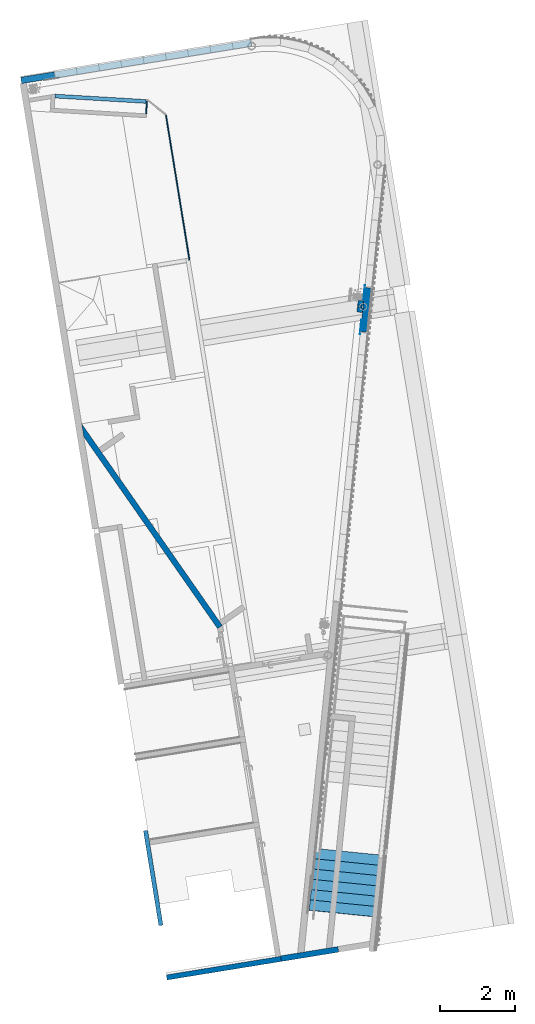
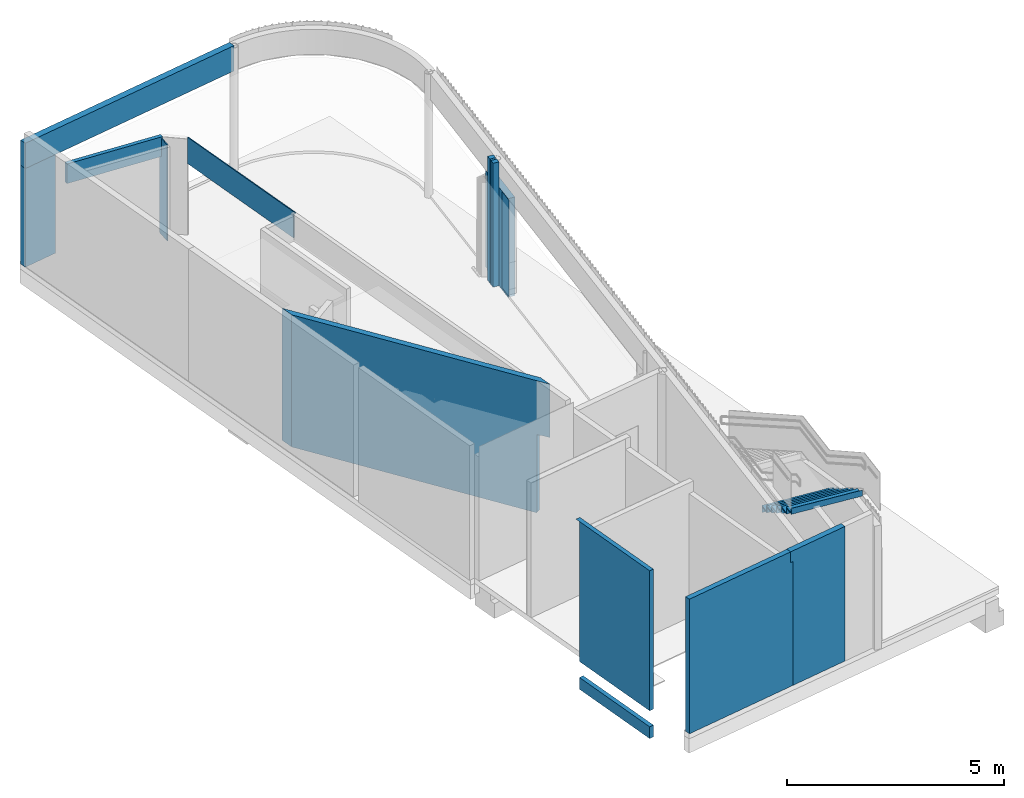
# One storey, part 12 of 23: 16 walls, 1 stair flight, 1 element without a shape of its own.
"""IFC2X3 building model written with IfcOpenShell, lengths in millimetres."""

from ifc_helpers import new_model, entity, si_unit, converted_unit, derived_unit, direction, frame, frame_2d, origin, origin_with_axes, origin_2d_with_axis, place, context, subcontext, project, spatial, rectangle, extrude, faceted_brep, material, material_list, layer, layer_set, layer_usage, type_object, element, aggregate, save


model = new_model("IFC2X3")

# Units and contexts
plan_context = context("Plan", 3, precision=1e-05, world=origin_with_axes())
model_context = context("Model", 3, precision=0.01, world=origin(), true_north=direction((6.12323399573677e-17, 1.0)))
body_context = subcontext(model_context, "Body", "Model", "MODEL_VIEW")
ifc_project = project(units=[converted_unit("PLANEANGLEUNIT", "DEGREE", entity("IfcPositiveLengthMeasure", 0.0174532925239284), si_unit("PLANEANGLEUNIT", "RADIAN"), dimensions=[0, 0, 0, 0, 0, 0, 0]), si_unit("AREAUNIT", "SQUARE_METRE"), si_unit("LENGTHUNIT", "METRE", prefix="MILLI"), si_unit("MASSUNIT", "GRAM", prefix="KILO"), si_unit("POWERUNIT", "WATT"), si_unit("PRESSUREUNIT", "PASCAL", prefix="KILO"), si_unit("FORCEUNIT", "NEWTON", prefix="KILO"), si_unit("ELECTRICVOLTAGEUNIT", "VOLT"), si_unit("ELECTRICCURRENTUNIT", "AMPERE"), si_unit("THERMODYNAMICTEMPERATUREUNIT", "DEGREE_CELSIUS"), si_unit("TIMEUNIT", "SECOND"), si_unit("VOLUMEUNIT", "CUBIC_METRE"), derived_unit("LINEARVELOCITYUNIT", [(si_unit("LENGTHUNIT", "METRE"), 1), (si_unit("TIMEUNIT", "SECOND"), -1)]), derived_unit("VOLUMETRICFLOWRATEUNIT", [(si_unit("VOLUMEUNIT", "CUBIC_METRE"), 1), (si_unit("TIMEUNIT", "SECOND"), -1)]), derived_unit("THERMALTRANSMITTANCEUNIT", [(si_unit("POWERUNIT", "WATT"), 1), (si_unit("THERMODYNAMICTEMPERATUREUNIT", "KELVIN"), -1), (si_unit("AREAUNIT", "SQUARE_METRE"), -1)]), derived_unit("SOUNDPRESSUREUNIT", [(si_unit("PRESSUREUNIT", "PASCAL"), 1)])], contexts=[model_context, plan_context])

# Site, building, storey
site_placement = place(None, frame((-0.00071070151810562, 0.00438415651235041, 0.0), z_axis=(0.0, 0.0, 1.0), x_axis=(-0.160236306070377, 0.987078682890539, 0.0)))
site = spatial("IfcSite", under=ifc_project, at=site_placement, Name="Default", CompositionType="ELEMENT")
building_placement = place(site_placement, origin_with_axes())
building = spatial("IfcBuilding", under=site, at=building_placement, Name="TOO", CompositionType="ELEMENT")
storey_placement = place(building_placement, frame((0.0, 0.0, 58999.9999999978), z_axis=(0.0, 0.0, 1.0), x_axis=(1.0, 0.0, 0.0)))
storey = spatial("IfcBuildingStorey", under=building, at=storey_placement, Name="Nivå F", CompositionType="ELEMENT", Elevation=58999.9999999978)

# Walls
ifc_material_1 = material(Name="A240 - Gipsplate")
ifc_layer_1 = layer(ifc_material_1, 12.5)
ifc_layer_2 = layer(ifc_material_1, 12.5)
ifc_material_2 = material(Name="A200 - Isolasjon - Rock Wool")
ifc_layer_3 = layer(ifc_material_2, 100.0)
ifc_layer_4 = layer(ifc_material_1, 12.5)
ifc_layer_5 = layer(ifc_material_1, 12.5)
ifc_layer_set_1 = layer_set([ifc_layer_1, ifc_layer_2, ifc_layer_3, ifc_layer_4, ifc_layer_5], Name="Basic Wall:A242 - GG100/100GG")
wall_type_1 = type_object("IfcWallType", Name="Basic Wall:A242 - GG100/100GG", PredefinedType="STANDARD", material=ifc_layer_set_1)
wall_1_placement = place(storey_placement, frame((763112.619644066, -505526.038959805, -70.0), z_axis=(0.0, 0.0, 1.0), x_axis=(0.0, 1.0, 0.0)))
element("IfcWall", 1, at=wall_1_placement, inside=storey, type_object=wall_type_1, Name="Basic Wall:A242 - GG100/100GG", ObjectType="Basic Wall:A242 - GG100/100GG", context=body_context, shape_type="Brep", body=[
    faceted_brep([(0.0, -75.0, 0.0), (157.454085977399, -75.0, 0.0), (312.745513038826, -75.0, 0.0), (1546.30940745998, -75.0, 0.0), (1546.30940745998, -75.0, 3480.0), (1615.05940746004, -75.0, 3480.0), (1615.05940746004, -75.0, 3780.0), (312.745513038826, -75.0, 3780.0), (157.454085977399, -75.0, 3780.0), (0.0, -75.0, 3780.0), (0.0, 75.0, 0.0), (0.0, 75.0, 3780.0), (1615.05940746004, 75.0, 3780.0), (1615.05940746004, 75.0, 3480.0), (1546.30940745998, 75.0, 3480.0), (1546.30940745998, 75.0, 0.0), (1546.30940745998, -62.5000000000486, 0.0), (1546.30940745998, -62.5000000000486, 3480.0)], [[[0, 1, 2, 3, 4, 5, 6, 7, 8, 9]], [[10, 11, 12, 13, 14, 15]], [[3, 2, 1, 0, 10, 15, 16]], [[9, 8, 7, 6, 12, 11]], [[0, 9, 11, 10]], [[6, 5, 13, 12]], [[13, 5, 4, 17, 14]], [[4, 3, 16, 15, 14, 17]]]),
])
wall_2_placement = place(storey_placement, frame((771773.280917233, -503938.79756389, 0.0), z_axis=(0.0, 0.0, 1.0), x_axis=(0.90134359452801, 0.433104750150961, 0.0)))
element("IfcWall", 2, at=wall_2_placement, inside=storey, type_object=wall_type_1, Name="Basic Wall:A242 - GG100/100GG", ObjectType="Basic Wall:A242 - GG100/100GG", context=body_context, shape_type="Brep", body=[
    faceted_brep([(339.929947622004, -75.0, 0.0), (489.929947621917, -75.0, 0.0), (5939.92994762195, -75.0, 0.0), (6089.92994762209, -75.0, 0.0), (6878.05394401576, -75.0, 0.0), (6878.05394401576, -75.0, 3710.0), (6089.92994762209, -75.0, 3710.0), (5939.92994762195, -75.0, 3710.0), (312.16822057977, -75.0, 3710.0), (312.16822057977, -75.0, 2200.0), (339.929947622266, -75.0, 2200.0), (6565.88572343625, 75.0, 0.0), (346.336538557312, 75.0, 0.0), (339.929947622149, 75.0, 0.0), (339.929947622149, 75.0, 2200.0), (235.39105605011, 75.0, 2200.0), (235.391056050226, 75.0, 2210.0), (1.25146470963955e-09, 75.0, 2210.0), (0.0, 75.0, 3710.0), (346.336538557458, 75.0, 3710.0), (6565.88572343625, 75.0, 3710.0), (191.236466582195, -16.8910641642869, 2200.0), (191.236466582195, -16.8910641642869, 2210.0)], [[[0, 1, 2, 3, 4, 5, 6, 7, 8, 9, 10]], [[11, 12, 13, 14, 15, 16, 17, 18, 19, 20]], [[4, 3, 2, 1, 0, 13, 12, 11]], [[8, 7, 6, 5, 20, 19, 18]], [[5, 4, 11, 20]], [[10, 9, 21, 15, 14]], [[13, 0, 10, 14]], [[8, 18, 17, 22, 21, 9]], [[16, 22, 17]], [[22, 16, 15, 21]]]),
])
ifc_layer_6 = layer(ifc_material_1, 12.5)
ifc_layer_7 = layer(ifc_material_1, 12.5)
ifc_layer_8 = layer(ifc_material_1, 12.5)
ifc_material_3 = material(Name="A240 - Stenderverk - Uisolert")
ifc_layer_9 = layer(ifc_material_3, 100.0)
ifc_layer_set_2 = layer_set([ifc_layer_6, ifc_layer_7, ifc_layer_8, ifc_layer_9], Name="Basic Wall:A242 - GGG100/0")
wall_type_2 = type_object("IfcWallType", Name="Basic Wall:A242 - GGG100/0", PredefinedType="STANDARD", material=ifc_layer_set_2)
wall_3_placement = place(storey_placement, frame((763106.369644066, -498309.980498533, -70.0), z_axis=(0.0, 0.0, 1.0), x_axis=(0.0, -1.0, 0.0)))
element("IfcWall", 3, at=wall_3_placement, inside=storey, type_object=wall_type_2, Name="Basic Wall:A242 - GGG100/0", ObjectType="Basic Wall:A242 - GGG100/0", context=body_context, shape_type="Brep", body=[
    faceted_brep([(5669.749053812, -68.750000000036, 0.0), (5669.749053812, -68.750000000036, 3780.00000000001), (5669.749053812, 68.750000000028, 3780.00000000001), (5669.749053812, 68.750000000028, 0.0), (2592.49999999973, 68.750000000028, 3780.00000000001), (2592.49999999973, 68.750000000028, 0.0), (2592.49999999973, -68.750000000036, 0.0), (2592.49999999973, -68.750000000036, 3780.00000000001)], [[[0, 1, 2, 3]], [[4, 5, 3, 2]], [[6, 7, 1, 0]], [[5, 6, 0, 3]], [[7, 4, 2, 1]], [[7, 6, 5, 4]]], orient=[[False], [False], [False], [False], [False], [False]]),
])
ifc_layer_10 = layer(ifc_material_1, 12.5)
ifc_layer_11 = layer(ifc_material_1, 12.5)
ifc_layer_12 = layer(ifc_material_2, 120.0)
ifc_layer_13 = layer(ifc_material_1, 12.5)
ifc_layer_14 = layer(ifc_material_1, 12.5)
ifc_layer_set_3 = layer_set([ifc_layer_10, ifc_layer_11, ifc_layer_12, ifc_layer_13, ifc_layer_14], Name="Basic Wall:A242 - GG120/100GG")
ifc_layer_usage_1 = layer_usage(ifc_layer_set_3, "AXIS2", "NEGATIVE", 85.0)
wall_type_3 = type_object("IfcWallType", Name="Basic Wall:A242 - GG120/100GG", PredefinedType="STANDARD", material=ifc_layer_set_3)
wall_4_placement = place(storey_placement, frame((780354.300785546, -509129.809516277, -70.0), z_axis=(0.0, 0.0, 1.0), x_axis=(-0.965925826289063, 0.25881904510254, 0.0)))
element("IfcWallStandardCase", 4, at=wall_4_placement, inside=storey, type_object=wall_type_3, material=ifc_layer_usage_1, Name="Basic Wall:A242 - GG120/100GG", ObjectType="Basic Wall:A242 - GG120/100GG", context=body_context, shape_type="SweptSolid", body=[
    extrude(rectangle(XDim=1179.99999999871, YDim=169.999999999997, at=frame_2d((589.999999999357, 1.79340986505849e-11), x_axis=(-1.0, 0.0))), origin(), (0.0, 0.0, 1.0), 2769.99999999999),
])
wall_5_placement = place(storey_placement, frame((787277.619644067, -507101.295602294, 2700.0), z_axis=(0.0, 0.0, 1.0), x_axis=(0.0, 1.0, 0.0)))
element("IfcWall", 5, at=wall_5_placement, inside=storey, type_object=wall_type_3, Name="Basic Wall:A242 - GG120/100GG", ObjectType="Basic Wall:A242 - GG120/100GG", context=body_context, shape_type="Brep", body=[
    faceted_brep([(6198.81510376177, -85.0, 710.000000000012), (6198.81510376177, -85.0, 0.0), (0.0, -85.0, 0.0), (0.0, -85.0, 710.000000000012), (6198.81510376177, 85.0, 0.0), (6198.81510376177, 85.0, 710.000000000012), (0.0, 85.0, 710.000000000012), (0.0, 85.0, 0.0)], [[[0, 1, 2, 3]], [[4, 5, 6, 7]], [[7, 6, 3, 2]], [[1, 4, 7, 2]], [[5, 0, 3, 6]], [[5, 4, 1, 0]]], orient=[[False], [False], [False], [False], [False], [False]]),
])
wall_6_placement = place(storey_placement, frame((787277.619644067, -501792.480498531, -70.0), z_axis=(0.0, 0.0, 1.0), x_axis=(0.0, 1.0, 0.0)))
element("IfcWall", 6, at=wall_6_placement, inside=storey, type_object=wall_type_3, Name="Basic Wall:A242 - GG120/100GG", ObjectType="Basic Wall:A242 - GG120/100GG", context=body_context, shape_type="Brep", body=[
    faceted_brep([(889.999999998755, 85.0000000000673, 0.0), (889.999999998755, 85.0000000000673, 2769.99999999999), (0.0, 85.0000000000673, 2769.99999999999), (0.0, 85.0000000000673, 0.0), (0.0, -85.0000000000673, 2769.99999999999), (0.0, -85.0000000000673, 0.0), (889.999999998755, -85.0000000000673, 2769.99999999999), (889.999999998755, -85.0000000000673, 0.0)], [[[0, 1, 2, 3]], [[3, 2, 4, 5]], [[6, 7, 5, 4]], [[7, 0, 3, 5]], [[1, 6, 4, 2]], [[7, 6, 1, 0]]], orient=[[False], [False], [False], [False], [False], [False]]),
])
ifc_layer_15 = layer(ifc_material_1, 12.5)
ifc_layer_16 = layer(ifc_material_1, 12.5)
ifc_layer_17 = layer(ifc_material_1, 12.5)
ifc_layer_18 = layer(ifc_material_3, 75.0)
ifc_layer_set_4 = layer_set([ifc_layer_15, ifc_layer_16, ifc_layer_17, ifc_layer_18], Name="Basic Wall:A242 - GGG75/0")
wall_type_4 = type_object("IfcWallType", Name="Basic Wall:A242 - GGG75/0", PredefinedType="STANDARD", material=ifc_layer_set_4)
wall_7_placement = place(storey_placement, frame((767177.619644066, -500970.980498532, -220.0), z_axis=(0.0, 0.0, 1.0), x_axis=(-1.0, 0.0, 0.0)))
element("IfcWall", 7, at=wall_7_placement, inside=storey, type_object=wall_type_4, Name="Basic Wall:A242 - GGG75/0", ObjectType="Basic Wall:A242 - GGG75/0", context=body_context, shape_type="Brep", body=[
    faceted_brep([(0.0, -56.2499999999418, 3930.85031052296), (2680.0, -56.2499999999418, 3930.85031052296), (2680.0, 56.2500000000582, 3930.85031052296), (0.0, 56.2500000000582, 3930.85031052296), (125.0, -56.2499999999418, 0.0), (2680.0, -56.2499999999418, 0.0), (2680.0, -56.2499999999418, 3630.0), (0.0, -56.2499999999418, 3930.0), (125.0, -56.2499999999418, 3930.0), (125.0, 56.2500000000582, 0.0), (125.0, 56.2500000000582, 3930.0), (0.0, 56.2500000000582, 3930.0), (2680.0, 56.2500000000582, 0.0)], [[[0, 1, 2, 3]], [[4, 5, 6, 1, 0, 7, 8]], [[9, 10, 11, 3, 2, 12]], [[5, 4, 9, 12]], [[1, 6, 5, 12, 2]], [[7, 0, 3, 11]], [[7, 11, 10, 8]], [[4, 8, 10, 9]]]),
])
wall_8_placement = place(storey_placement, frame((767052.619644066, -500970.980498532, -1600.0), z_axis=(0.0, 0.0, 1.0), x_axis=(-1.0, 0.0, 0.0)))
element("IfcWall", 8, at=wall_8_placement, inside=storey, type_object=wall_type_4, Name="Basic Wall:A242 - GGG75/0", ObjectType="Basic Wall:A242 - GGG75/0", context=body_context, shape_type="Brep", body=[
    faceted_brep([(2555.00000000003, 56.2500000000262, 600.000000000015), (2555.00000000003, -56.2500000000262, 600.000000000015), (2555.00000000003, -56.2500000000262, 929.997741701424), (2555.00000000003, 56.2500000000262, 929.997741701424), (0.0, 56.2500000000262, 600.000000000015), (0.0, 56.2500000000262, 929.997741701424), (0.0, -56.2500000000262, 600.000000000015), (0.0, -56.2500000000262, 929.997741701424)], [[[0, 1, 2, 3]], [[4, 0, 3, 5]], [[6, 4, 5, 7]], [[1, 6, 7, 2]], [[3, 2, 7, 5]], [[4, 6, 1, 0]]], orient=[[False], [False], [False], [False], [False], [False]]),
])
ifc_layer_19 = layer(ifc_material_1, 12.5)
ifc_layer_20 = layer(ifc_material_1, 12.5)
ifc_layer_21 = layer(ifc_material_3, 100.0)
ifc_layer_set_5 = layer_set([ifc_layer_19, ifc_layer_20, ifc_layer_21], Name="Basic Wall:A242 - GG100/0")
ifc_layer_usage_2 = layer_usage(ifc_layer_set_5, "AXIS2", "POSITIVE", -62.5)
wall_type_5 = type_object("IfcWallType", Name="Basic Wall:A242 - GG100/0", PredefinedType="STANDARD", material=ifc_layer_set_5)
wall_9_placement = place(storey_placement, frame((779968.323821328, -508938.388825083, -70.0), z_axis=(0.0, 0.0, 1.0), x_axis=(0.258819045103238, 0.965925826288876, 0.0)))
element("IfcWallStandardCase", 9, at=wall_9_placement, inside=storey, type_object=wall_type_5, material=ifc_layer_usage_2, Name="Basic Wall:A242 - GG100/0", ObjectType="Basic Wall:A242 - GG100/0", context=body_context, shape_type="SweptSolid", body=[
    extrude(rectangle(XDim=149.744935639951, YDim=125.000000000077, at=frame_2d((74.8724678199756, 2.77857736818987e-11), x_axis=(-1.0, 0.0))), origin(), (0.0, 0.0, 1.0), 3480.00000000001),
])
ifc_layer_usage_3 = layer_usage(ifc_layer_set_5, "AXIS2", "NEGATIVE", 62.5)
wall_10_placement = place(storey_placement, frame((779789.627543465, -508890.507301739, -70.0), z_axis=(0.0, 0.0, 1.0), x_axis=(0.258819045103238, 0.965925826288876, 0.0)))
element("IfcWallStandardCase", 10, at=wall_10_placement, inside=storey, type_object=wall_type_5, material=ifc_layer_usage_3, Name="Basic Wall:A242 - GG100/0", ObjectType="Basic Wall:A242 - GG100/0", context=body_context, shape_type="SweptSolid", body=[
    extrude(rectangle(XDim=149.744935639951, YDim=125.000000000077, at=frame_2d((74.8724678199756, 2.77857736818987e-11), x_axis=(-1.0, 0.0))), origin(), (0.0, 0.0, 1.0), 3480.00000000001),
])
ifc_layer_usage_4 = layer_usage(ifc_layer_set_5, "AXIS2", "POSITIVE", -62.5)
wall_11_placement = place(storey_placement, frame((779930.534108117, -508837.940498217, -70.0), z_axis=(0.0, 0.0, 1.0), x_axis=(-0.965925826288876, 0.258819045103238, 0.0)))
element("IfcWallStandardCase", 11, at=wall_11_placement, inside=storey, type_object=wall_type_5, material=ifc_layer_usage_4, Name="Basic Wall:A242 - GG100/0", ObjectType="Basic Wall:A242 - GG100/0", context=body_context, shape_type="SweptSolid", body=[
    extrude(rectangle(XDim=59.9999999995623, YDim=125.000000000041, at=frame_2d((29.9999999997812, 9.1766594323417e-12), x_axis=(-1.0, 0.0))), origin(), (0.0, 0.0, 1.0), 3480.00000000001),
])
ifc_layer_22 = layer(ifc_material_1, 12.5)
ifc_material_4 = material(Name="A240 - X-finer")
ifc_layer_23 = layer(ifc_material_4, 15.0)
ifc_layer_24 = layer(ifc_material_3, 75.0)
ifc_layer_set_6 = layer_set([ifc_layer_22, ifc_layer_23, ifc_layer_24], Name="Basic Wall:A242 - GX75/0 (KA)")
wall_type_6 = type_object("IfcWallType", Name="Basic Wall:A242 - GX75/0 (KA)", PredefinedType="STANDARD", material=ifc_layer_set_6)
wall_12_placement = place(storey_placement, frame((786722.603910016, -501723.30065741, 2200.0), z_axis=(0.0, 0.0, 1.0), x_axis=(-0.218143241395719, -0.975916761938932, 0.0)))
element("IfcWall", 12, at=wall_12_placement, inside=storey, type_object=wall_type_6, Name="Basic Wall:A242 - GX75/0 (KA)", ObjectType="Basic Wall:A242 - GX75/0 (KA)", context=body_context, shape_type="Brep", body=[
    faceted_brep([(2464.5, -51.25, 0.0), (2464.5, -51.25, 550.0), (0.0, -51.2500000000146, 550.0), (0.0, -51.2500000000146, 0.0), (2435.0, -51.25, 0.0), (2435.0, -51.2500000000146, 500.0), (2462.49999999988, -51.2500000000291, 500.0), (2462.49999999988, -51.2500000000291, 0.0), (0.0, 51.2499999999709, 550.0), (2464.49999999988, 51.2499999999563, 550.0), (2464.49999999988, 51.2499999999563, 500.0), (2435.0, 51.2500000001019, 500.0), (2435.0, 51.2500000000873, 0.0), (0.0, 51.2499999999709, 0.0), (2464.49999999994, 23.7499999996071, 0.0), (2464.49999999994, 23.7500000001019, 500.0), (2462.49999999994, 23.7499999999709, 500.0), (2462.49999999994, 23.7499999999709, 495.744352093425), (2462.49999999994, 23.7499999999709, 0.0), (2435.0, 23.7499999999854, 500.0)], [[[0, 1, 2, 3, 4, 5, 6, 7]], [[8, 9, 10, 11, 12, 13]], [[3, 13, 12, 4]], [[1, 0, 14, 15, 10, 9]], [[2, 1, 9, 8]], [[3, 2, 8, 13]], [[6, 16, 17, 18, 7]], [[5, 4, 12, 11, 19]], [[16, 6, 5, 19, 11, 10, 15]], [[15, 14, 18, 17, 16]], [[0, 7, 18, 14]]]),
])
ifc_layer_25 = layer(ifc_material_1, 12.5)
ifc_layer_26 = layer(ifc_material_4, 15.0)
ifc_layer_set_7 = layer_set([ifc_layer_25, ifc_layer_26], Name="Basic Wall:A242 - GX (KA)")
wall_type_7 = type_object("IfcWallType", Name="Basic Wall:A242 - GX (KA)", PredefinedType="STANDARD", material=ifc_layer_set_7)
wall_13_placement = place(storey_placement, frame((785867.59301216, -504041.362237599, 0.0), z_axis=(0.0, 0.0, 1.0), x_axis=(0.975916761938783, -0.218143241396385, 0.0)))
element("IfcWall", 13, at=wall_13_placement, inside=storey, type_object=wall_type_7, Name="Basic Wall:A242 - GX (KA)", ObjectType="Basic Wall:A242 - GX (KA)", context=body_context, shape_type="Brep", body=[
    faceted_brep([(0.0, -13.75, 0.0), (355.439892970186, -13.75, 0.0), (355.4398929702, -13.7500000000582, 2695.74435209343), (352.500000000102, -13.75, 2695.74435209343), (352.500000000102, -13.75, 2700.0), (277.500000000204, -13.7499999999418, 2700.0), (0.0, -13.75, 2700.0), (0.0, 13.7499999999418, 0.0), (0.0, 13.7499999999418, 2700.0), (277.500000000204, 13.7499999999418, 2700.0), (352.500000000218, 13.7499999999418, 2700.0), (352.500000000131, 13.7499999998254, 2695.74435209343), (374.983125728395, 13.7499999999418, 2695.74435209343), (374.983125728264, 13.7499999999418, 0.0)], [[[0, 1, 2, 3, 4, 5, 6]], [[7, 8, 9, 10, 11, 12, 13]], [[1, 0, 7, 13]], [[6, 5, 4, 10, 9, 8]], [[11, 3, 2, 12]], [[2, 1, 13, 12]], [[4, 3, 11, 10]], [[0, 6, 8, 7]]]),
])
wall_14_placement = place(storey_placement, frame((785757.619644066, -504555.730498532, 2010.0), z_axis=(0.0, 0.0, 1.0), x_axis=(-1.0, 0.0, 0.0)))
element("IfcWall", 14, at=wall_14_placement, inside=storey, type_object=wall_type_7, Name="Basic Wall:A242 - GX (KA)", ObjectType="Basic Wall:A242 - GX (KA)", context=body_context, shape_type="Brep", body=[
    faceted_brep([(0.0, -13.75, 0.0), (3860.0, -13.75, 0.0), (3860.0, -13.75, 700.0), (3911.25000000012, -13.75, 700.0), (3911.25000000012, -13.75, 740.0), (0.0, -13.75, 740.0), (0.0, -13.75, 712.691025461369), (0.0, 13.75, 0.0), (0.0, 13.75, 712.691025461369), (0.0, 13.75, 740.0), (3911.25000000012, 13.75, 740.0), (3911.25000000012, 13.75, 700.0), (3860.0, 13.75, 700.0), (3860.0, 13.75, 0.0)], [[[0, 1, 2, 3, 4, 5, 6]], [[7, 8, 9, 10, 11, 12, 13]], [[2, 1, 13, 12]], [[1, 0, 7, 13]], [[5, 4, 10, 9]], [[0, 6, 5, 9, 8, 7]], [[4, 3, 11, 10]], [[11, 3, 2, 12]]]),
])
ifc_material_5 = material(Name="A256 - Metall  Aluminum beslag")
ifc_layer_27 = layer(ifc_material_5, 5.0)
ifc_layer_set_8 = layer_set([ifc_layer_27], Name="Basic Wall:A256 Metal beslag (KA)")
ifc_layer_usage_5 = layer_usage(ifc_layer_set_8, "AXIS2", "NEGATIVE", 2.5)
wall_type_8 = type_object("IfcWallType", Name="Basic Wall:A256 Metal beslag (KA)", PredefinedType="STANDARD", material=ifc_layer_set_8)
wall_15_placement = place(storey_placement, frame((780441.026725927, -509057.284615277, 0.0), z_axis=(0.0, 0.0, 1.0), x_axis=(-0.965925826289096, 0.258819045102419, 0.0)))
element("IfcWallStandardCase", 15, at=wall_15_placement, inside=storey, type_object=wall_type_8, material=ifc_layer_usage_5, Name="Basic Wall:A256 Metal beslag (KA)", ObjectType="Basic Wall:A256 Metal beslag (KA)", context=body_context, shape_type="SweptSolid", body=[
    extrude(rectangle(XDim=387.867285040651, YDim=5.00000000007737, at=frame_2d((193.933642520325, -4.59920990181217e-12), x_axis=(-1.0, 0.0))), origin(), (0.0, 0.0, 1.0), 2699.99999999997),
])
ifc_layer_usage_6 = layer_usage(ifc_layer_set_8, "AXIS2", "NEGATIVE", 2.5)
wall_16_placement = place(storey_placement, frame((779550.314921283, -508818.619106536, 0.0), z_axis=(0.0, 0.0, 1.0), x_axis=(-0.965925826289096, 0.258819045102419, 0.0)))
element("IfcWallStandardCase", 16, at=wall_16_placement, inside=storey, type_object=wall_type_8, material=ifc_layer_usage_6, Name="Basic Wall:A256 Metal beslag (KA)", ObjectType="Basic Wall:A256 Metal beslag (KA)", context=body_context, shape_type="SweptSolid", body=[
    extrude(rectangle(XDim=387.867285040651, YDim=5.00000000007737, at=frame_2d((193.933642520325, -4.59920990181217e-12), x_axis=(-1.0, 0.0))), origin(), (0.0, 0.0, 1.0), 2699.99999999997),
])

# Stair, stair flight
stair_placement = place(storey_placement, origin_with_axes())
stair = element("IfcStair", 17, at=stair_placement, inside=storey, Name="Assembled Stair:Stair", ObjectType="Assembled Stair:A280 - S01", ShapeType="NOTDEFINED")
ifc_material_6 = material(Name="A255 - Gummi")
ifc_material_7 = material(Name="<Unnamed>")
ifc_material_list = material_list([ifc_material_6, ifc_material_7])
stair_flight_type = type_object("IfcStairFlightType", Name="Non-Monolithic Run:Trapper med gummi belegg", PredefinedType="STRAIGHT")
stair_flight_placement = place(stair_placement, origin_with_axes())
stair_flight = element("IfcStairFlight", 18, at=stair_flight_placement, type_object=stair_flight_type, material=ifc_material_list, Name="Assembled Stair:Stair:14128751 Run 2", ObjectType="Non-Monolithic Run:Trapper med gummi belegg", NumberOfRiser=7, NumberOfTreads=6, RiserHeight=0.549184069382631, TreadLength=0.902230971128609, context=body_context, shape_type="SweptSolid", body=[
    extrude(rectangle(XDim=274.999999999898, YDim=1800.00000000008, at=frame_2d((1.42833300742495e-10, 2.44426701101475e-12), x_axis=(1.0, 0.0))), frame((765494.306855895, -506188.685669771, 2810.65217391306), z_axis=(0.0, 0.0, 1.0), x_axis=(0.965925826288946, -0.258819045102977, 0.0)), (0.0, 0.0, 1.0), 35.0000000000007),
    extrude(rectangle(XDim=1799.99999999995, YDim=5.0000000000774, at=origin_2d_with_axis()), frame((765624.706842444, -506223.62624086, 2643.26086956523), z_axis=(0.0, 0.0, 1.0), x_axis=(-0.258819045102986, -0.965925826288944, 0.0)), (0.0, 0.0, 1.0), 167.391304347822),
    extrude(rectangle(XDim=275.000000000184, YDim=1800.00000000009, at=frame_2d((-1.42847511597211e-10, -2.44426701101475e-12), x_axis=(1.0, 0.0))), frame((765228.677253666, -506117.510432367, 2978.04347826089), z_axis=(0.0, 0.0, 1.0), x_axis=(0.965925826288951, -0.25881904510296, 0.0)), (0.0, 0.0, 1.0), 35.0000000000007),
    extrude(rectangle(XDim=1800.00000000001, YDim=5.0000000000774, at=origin_2d_with_axis()), frame((765359.077240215, -506152.451003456, 2810.65217391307), z_axis=(0.0, 0.0, 1.0), x_axis=(-0.258819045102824, -0.965925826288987, 0.0)), (0.0, 0.0, 1.0), 167.391304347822),
    extrude(rectangle(XDim=274.999999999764, YDim=1800.00000000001, at=frame_2d((2.00827798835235e-10, 5.38307176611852e-11), x_axis=(1.0, 0.0))), frame((764963.047651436, -506046.335194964, 3145.43478260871), z_axis=(0.0, 0.0, 1.0), x_axis=(0.965925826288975, -0.258819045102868, 0.0)), (0.0, 0.0, 1.0), 35.0000000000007),
    extrude(rectangle(XDim=1800.00000000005, YDim=5.0000000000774, at=frame_2d((-1.55182533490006e-11, -7.59021734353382e-11), x_axis=(1.0, 0.0))), frame((765093.447637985, -506081.275766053, 2978.04347826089), z_axis=(0.0, 0.0, 1.0), x_axis=(-0.258819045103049, -0.965925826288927, 0.0)), (0.0, 0.0, 1.0), 167.391304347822),
    extrude(rectangle(XDim=275.000000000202, YDim=1800.00000000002, at=frame_2d((-2.69153588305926e-11, 1.00442321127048e-10), x_axis=(1.0, 0.0))), frame((764697.418049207, -505975.159957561, 3312.82608695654), z_axis=(0.0, 0.0, 1.0), x_axis=(0.965925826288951, -0.25881904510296, 0.0)), (0.0, 0.0, 1.0), 35.0000000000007),
    extrude(rectangle(XDim=1800.00000000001, YDim=5.0000000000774, at=origin_2d_with_axis()), frame((764827.818035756, -506010.10052865, 3145.43478260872), z_axis=(0.0, 0.0, 1.0), x_axis=(-0.258819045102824, -0.965925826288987, 0.0)), (0.0, 0.0, 1.0), 167.391304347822),
    extrude(rectangle(XDim=274.999999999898, YDim=1800.00000000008, at=frame_2d((8.96704932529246e-12, -3.34807737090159e-11), x_axis=(1.0, 0.0))), frame((764431.788446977, -505903.984720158, 3480.21739130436), z_axis=(0.0, 0.0, 1.0), x_axis=(0.965925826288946, -0.258819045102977, 0.0)), (0.0, 0.0, 1.0), 35.0000000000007),
    extrude(rectangle(XDim=1799.99999999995, YDim=5.0000000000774, at=origin_2d_with_axis()), frame((764562.188433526, -505938.925291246, 3312.82608695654), z_axis=(0.0, 0.0, 1.0), x_axis=(-0.258819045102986, -0.965925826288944, 0.0)), (0.0, 0.0, 1.0), 167.391304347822),
    extrude(rectangle(XDim=274.999999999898, YDim=1800.00000000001, at=frame_2d((1.79340986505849e-11, -6.6904703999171e-11), x_axis=(1.0, 0.0))), frame((764166.158844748, -505832.809482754, 3647.60869565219), z_axis=(0.0, 0.0, 1.0), x_axis=(0.965925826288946, -0.258819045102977, 0.0)), (0.0, 0.0, 1.0), 35.0000000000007),
    extrude(rectangle(XDim=1800.00000000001, YDim=5.0000000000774, at=origin_2d_with_axis()), frame((764296.558831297, -505867.750053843, 3480.21739130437), z_axis=(0.0, 0.0, 1.0), x_axis=(-0.258819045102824, -0.965925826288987, 0.0)), (0.0, 0.0, 1.0), 167.391304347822),
    extrude(rectangle(XDim=1800.00000000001, YDim=5.0000000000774, at=origin_2d_with_axis()), frame((764030.929229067, -505796.57481644, 3647.6086956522), z_axis=(0.0, 0.0, 1.0), x_axis=(-0.258819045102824, -0.965925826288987, 0.0)), (0.0, 0.0, 1.0), 167.391304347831),
])
aggregate(stair, [stair_flight])

save(model, "model.ifc")
